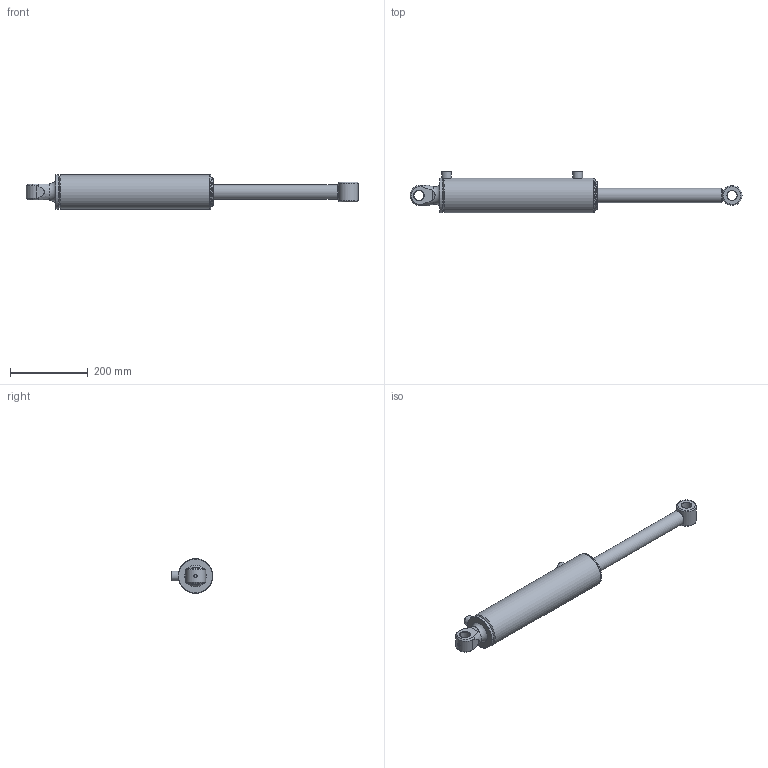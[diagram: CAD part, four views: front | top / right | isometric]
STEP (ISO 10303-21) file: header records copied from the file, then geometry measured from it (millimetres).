
FILE_DESCRIPTION(/* description */ ('Alibre Inc.'),/* implementation_level */ '2;1');
FILE_NAME(/* name */ 'export0',/* time_stamp */ '2016-08-16T10:00:26+12:00',/* author */ (''),/* organization */ (''),/* preprocessor_version */ 'ST-DEVELOPER v14',/* originating_system */ 'Alibre',/* authorisation */ '');
FILE_SCHEMA (('AUTOMOTIVE_DESIGN'));
Length unit declared in the file: centimetre
Bounding box: 853.13 x 106.9 x 88.9 mm (x, y, z)
Volume: 1610396.8 mm3; surface area: 368146.9 mm2
Topology: 12 solids, 12 shells, 157 faces, 332 edges, 209 vertices
Faces by surface type: cylinder 61, plane 57, cone 23, torus 13, sphere 2, bspline 1
Full cylindrical faces by diameter (mm): 7 x1, 8.3 x2, 8.8 x1, 9.525 x2, 15.25 x2, 23 x1, 23.622 x1, 25 x2, 25.4 x2, 25.451 x1, 38.1 x2, 38.18 x2, 44.45 x1, 46.9 x2, 47.62 x2, 50.8 x1, 60.33 x1, 69.2 x1, 70.36 x1, 71.6 x2, 72.57 x2, 72.87 x1, 74.83 x2, 76.09 x2, 76.1 x1, 76.2 x2, 79.4 x1, 88.9 x3
Entity records: 4365 total; most frequent: CARTESIAN_POINT 1210, DIRECTION 599, ORIENTED_EDGE 456, AXIS2_PLACEMENT_3D 310, FACE_BOUND 271, EDGE_LOOP 269, EDGE_CURVE 228, VERTEX_POINT 191
